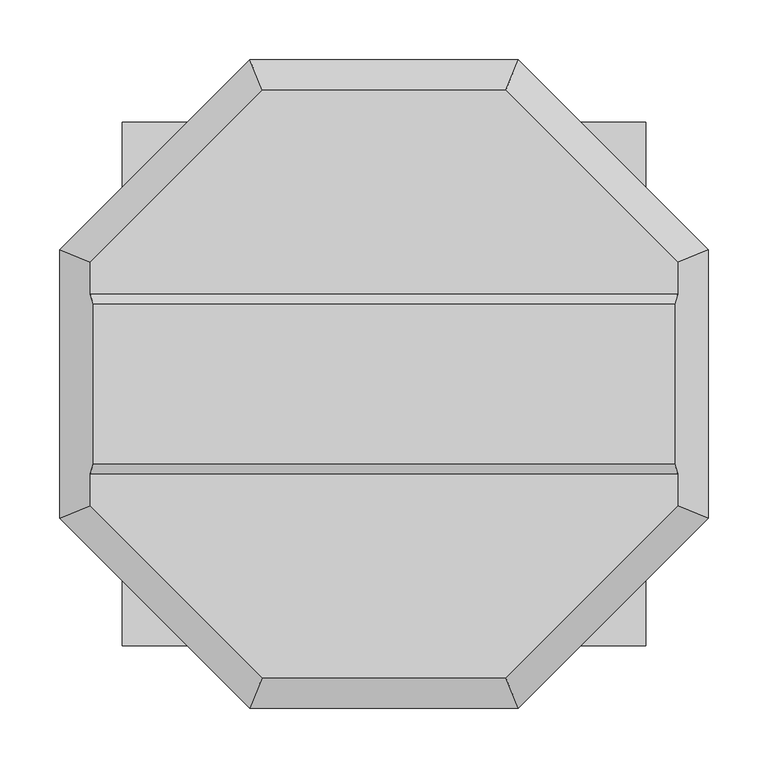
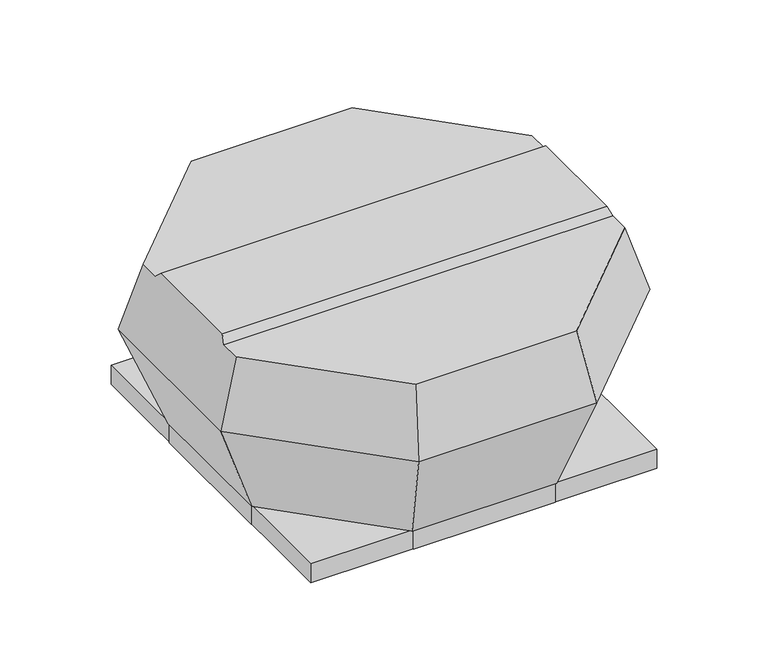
"""IFC4 building model written with IfcOpenShell, lengths in millimetres: unitary equipment geometry, VE-Wentylator-ParaForma-Harmann-VIVER_EC-Wywiewny : 2-280/1900EC."""

from ifc_helpers import new_model, si_unit, origin, place, context, project, spatial, faceted_brep, source, transform, mapped, element, save


def unitary_equipment_118d1ad5(model_context):
    return source(origin(), model_context, "Body", "Brep", [
        faceted_brep([(242.8427568, -66.5, 224.7), (242.8427568, 66.5, 224.7), (-242.8427568, 66.5, 224.7), (-242.8427568, -66.5, 224.7), (245.4048086, 74.95, 216.2), (-245.4048086, 74.95, 216.2), (245.4048086, -74.95, 216.2), (-245.4048086, -74.95, 216.2), (101.65, -245.4048086, 216.2), (245.4048086, -101.65, 216.2), (-245.4048086, -101.65, 216.2), (-101.65, -245.4048086, 216.2), (245.4048086, 101.65, 216.2), (101.65, 245.4048086, 216.2), (-101.65, 245.4048086, 216.2), (-245.4048086, 101.65, 216.2), (112.15, -270.754051, 132.1), (270.754051, -112.15, 132.1), (270.754051, 112.15, 132.1), (112.15, 270.754051, 132.1), (-112.15, 270.754051, 132.1), (-270.754051, 112.15, 132.1), (-270.754051, -112.15, 132.1), (-112.15, -270.754051, 132.1), (91.0, -219.6934342, 1.0), (-91.0, -219.6934342, 1.0), (-219.6934342, -91.0, 1.0), (-219.6934342, 91.0, 1.0), (-91.0, 219.6934342, 1.0), (91.0, 219.6934342, 1.0), (219.6934342, 91.0, 1.0), (219.6934342, -91.0, 1.0)], [[[0, 1, 2, 3]], [[1, 4, 5, 2]], [[6, 0, 3, 7]], [[8, 9, 6, 7, 10, 11]], [[12, 13, 14, 15, 5, 4]], [[9, 8, 16, 17]], [[9, 17, 18, 12, 4, 1, 0, 6]], [[13, 12, 18, 19]], [[14, 13, 19, 20]], [[15, 14, 20, 21]], [[15, 21, 22, 10, 7, 3, 2, 5]], [[11, 10, 22, 23]], [[8, 11, 23, 16]], [[24, 25, 26, 27, 28, 29, 30, 31]], [[24, 31, 17, 16]], [[31, 30, 18, 17]], [[30, 29, 19, 18]], [[29, 28, 20, 19]], [[28, 27, 21, 20]], [[27, 26, 22, 21]], [[26, 25, 23, 22]], [[25, 24, 16, 23]]]),
        faceted_brep([(217.5, 217.5, -24.0), (217.5, 217.5, 0.0), (-217.5, 217.5, 0.0), (-217.5, 217.5, -24.0), (218.5, 218.5, 1.0), (218.5, 218.5, -24.0), (-218.5, 218.5, -24.0), (-218.5, 218.5, 1.0), (-217.5, -217.5, 0.0), (-217.5, -217.5, -24.0), (-218.5, -218.5, -24.0), (-218.5, -218.5, 1.0), (217.5, -217.5, 0.0), (217.5, -217.5, -24.0), (218.5, -218.5, -24.0), (218.5, -218.5, 1.0)], [[[0, 1, 2, 3]], [[4, 5, 6, 7]], [[3, 2, 8, 9]], [[7, 6, 10, 11]], [[9, 8, 12, 13]], [[11, 10, 14, 15]], [[13, 12, 1, 0]], [[5, 14, 10, 6], [3, 9, 13, 0]], [[15, 14, 5, 4]], [[7, 11, 15, 4]], [[1, 12, 8, 2]]]),
        faceted_brep([(-218.5, -89.5, -24.0), (-219.5, -89.5, -24.0), (-219.5, 89.5, -24.0), (-218.5, 89.5, -24.0), (-218.5, -89.5, 1.0), (-218.5, 89.5, 1.0), (-219.5, 89.5, 1.0), (-219.5, -89.5, 1.0)], [[[0, 1, 2, 3]], [[4, 5, 6, 7]], [[1, 0, 4, 7]], [[2, 1, 7, 6]], [[3, 2, 6, 5]], [[0, 3, 5, 4]]]),
        faceted_brep([(219.5, -89.5, -24.0), (218.5, -89.5, -24.0), (218.5, 89.5, -24.0), (219.5, 89.5, -24.0), (219.5, 89.5, 1.0), (218.5, 89.5, 1.0), (218.5, 5.0, 1.0), (218.5, -5.0, 1.0), (218.5, -89.5, 1.0), (219.5, -89.5, 1.0), (219.5, -5.0, 1.0), (219.5, 5.0, 1.0)], [[[0, 1, 2, 3]], [[4, 5, 6, 7, 8, 9, 10, 11]], [[1, 0, 9, 8]], [[2, 1, 8, 7, 6, 5]], [[3, 2, 5, 4]], [[0, 3, 4, 11, 10, 9]]]),
        faceted_brep([(89.5, 218.5, -24.0), (-89.5, 218.5, -24.0), (-89.5, 219.5, -24.0), (89.5, 219.5, -24.0), (89.5, 218.5, 1.0), (89.5, 219.5, 1.0), (-89.5, 219.5, 1.0), (-89.5, 218.5, 1.0)], [[[0, 1, 2, 3]], [[4, 5, 6, 7]], [[1, 0, 4, 7]], [[2, 1, 7, 6]], [[3, 2, 6, 5]], [[0, 3, 5, 4]]]),
        faceted_brep([(89.5, -219.5, -24.0), (-89.5, -219.5, -24.0), (-89.5, -218.5, -24.0), (89.5, -218.5, -24.0), (89.5, -219.5, 1.0), (89.5, -218.5, 1.0), (-89.5, -218.5, 1.0), (-89.5, -219.5, 1.0)], [[[0, 1, 2, 3]], [[4, 5, 6, 7]], [[1, 0, 4, 7]], [[2, 1, 7, 6]], [[3, 2, 6, 5]], [[0, 3, 5, 4]]]),
    ])


if __name__ == "__main__":
    model = new_model("IFC4")
    model_context = context("Model", 3, world=origin())
    ifc_project = project(units=[si_unit("LENGTHUNIT", "METRE", prefix="MILLI")], contexts=[model_context])
    site = spatial("IfcSite", under=ifc_project)
    building = spatial("IfcBuilding", under=site)
    placement = place(None, origin())
    unitary_equipment_shape = unitary_equipment_118d1ad5(model_context)
    element("IfcUnitaryEquipment", 1, ObjectType="VE-Wentylator-ParaForma-Harmann-VIVER_EC-Wywiewny : 2-280/1900EC", at=placement, inside=building, context=model_context, shape_type="MappedRepresentation", body=[
        mapped(unitary_equipment_shape, transform((0.0, 0.0, 0.0), x_axis=(1.0, 0.0, 0.0), y_axis=(0.0, 1.0, 0.0), z_axis=(0.0, 0.0, 1.0))),
    ])
    save(model, "model.ifc")
